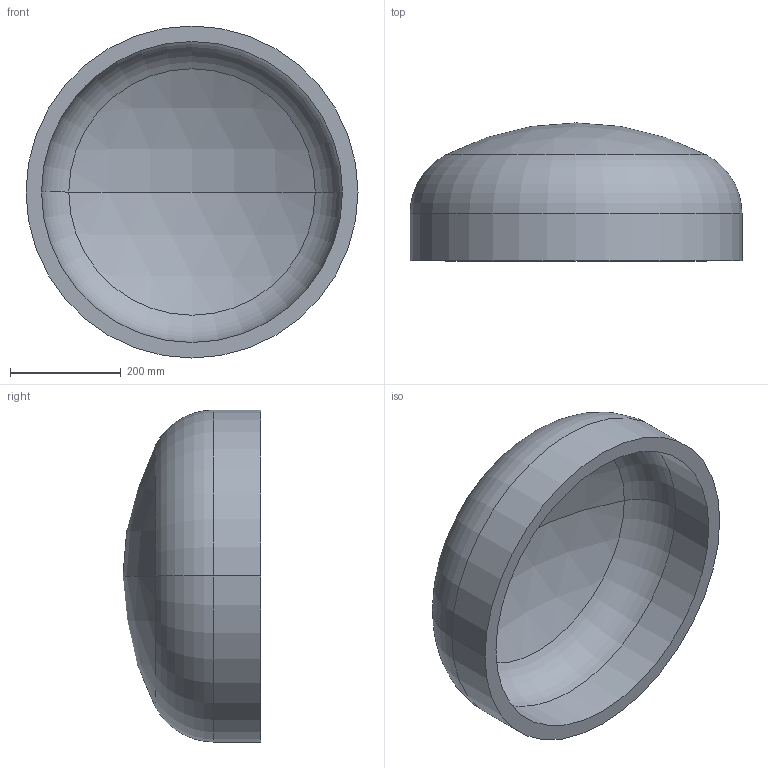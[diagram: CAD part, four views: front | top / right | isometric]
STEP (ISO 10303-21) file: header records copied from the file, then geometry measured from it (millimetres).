
FILE_DESCRIPTION (( 'STEP AP203' ), '1' );
FILE_NAME ('DIN 28013 Korbbogenform_-_Boden DIN 28013 - 600 x 85 - I - s=28.step', '2016-07-01T07:59:11', ( '' ), ( '' ), 'SwSTEP 2.0', 'SolidWorks 2013', '' );
FILE_SCHEMA (( 'CONFIG_CONTROL_DESIGN' ));
Length unit declared in the file: millimetre
Products named in the file (1): DIN 28013 Korbbogenform_-_Boden DIN 28013 - 600 x 85 - I - s=28
Bounding box: 600 x 249.28 x 600 mm (x, y, z)
Volume: 14592479.5 mm3; surface area: 1094277.5 mm2
Topology: 1 solids, 1 shells, 13 faces, 24 edges, 14 vertices
Faces by surface type: torus 4, cylinder 4, sphere 4, plane 1
Entity records: 407 total; most frequent: DIRECTION 72, CARTESIAN_POINT 52, ORIENTED_EDGE 48, AXIS2_PLACEMENT_3D 34, EDGE_CURVE 24, CIRCLE 20, EDGE_LOOP 14, VERTEX_POINT 14
